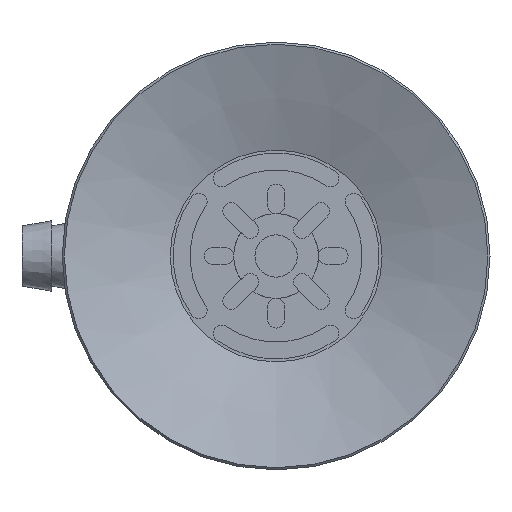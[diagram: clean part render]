
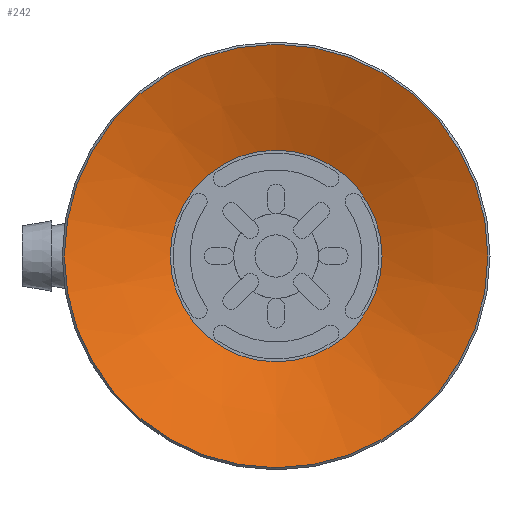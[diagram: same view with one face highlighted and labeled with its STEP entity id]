
A CAD part, front view. The second image highlights one B-rep face of the part: STEP entity #242.
In plain terms, the highlighted conical face has half-angle 70.201 degrees and reference radius 7.5 mm.
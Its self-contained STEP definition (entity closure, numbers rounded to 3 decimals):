
#242=ADVANCED_FACE('',(#419,#420),#421,.F.);
#419=FACE_BOUND('',#739,.T.);
#420=FACE_OUTER_BOUND('',#740,.T.);
#421=CONICAL_SURFACE('',#741,7.5,1.225);
#739=EDGE_LOOP('',(#1258));
#740=EDGE_LOOP('',(#1259));
#741=AXIS2_PLACEMENT_3D('',#1260,#1261,#1262);
#1258=ORIENTED_EDGE('',*,*,#2113,.F.);
#1259=ORIENTED_EDGE('',*,*,#1989,.T.);
#1260=CARTESIAN_POINT('',(0.0,0.0,2.7));
#1261=DIRECTION('',(0.0,0.,-1.0));
#1262=DIRECTION('',(0.0,1.0,0.));
#1989=EDGE_CURVE('',#2291,#2291,#2292,.T.);
#2113=EDGE_CURVE('',#2507,#2507,#2508,.T.);
#2291=VERTEX_POINT('',#2787);
#2292=CIRCLE('',#2788,15.0);
#2507=VERTEX_POINT('',#3062);
#2508=CIRCLE('',#3063,7.5);
#2787=CARTESIAN_POINT('',(0.0,15.0,0.));
#2788=AXIS2_PLACEMENT_3D('',#3723,#3724,#3725);
#3062=CARTESIAN_POINT('',(0.0,7.5,2.7));
#3063=AXIS2_PLACEMENT_3D('',#3977,#3978,#3979);
#3723=CARTESIAN_POINT('',(0.0,0.0,0.0));
#3724=DIRECTION('',(0.0,0.,-1.0));
#3725=DIRECTION('',(0.0,1.0,0.));
#3977=CARTESIAN_POINT('',(0.0,0.0,2.7));
#3978=DIRECTION('',(0.0,0.,-1.0));
#3979=DIRECTION('',(0.0,1.0,0.));
